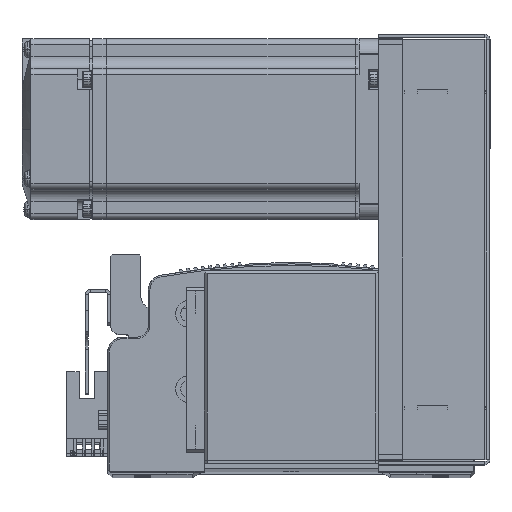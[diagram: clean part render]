
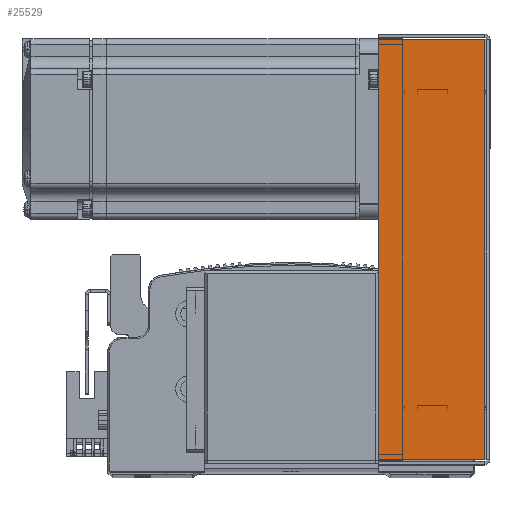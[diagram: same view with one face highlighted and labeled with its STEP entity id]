
A CAD part, top view. The second image highlights one B-rep face of the part: STEP entity #25529.
In plain terms, the highlighted planar face has unit normal (0, 0, 1) as drawn and (0, 0, -1) by its records, which use the part's own axes.
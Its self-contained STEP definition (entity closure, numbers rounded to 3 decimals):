
#4050 = CARTESIAN_POINT ( 'NONE',  ( -69.793, 0.737, -33.5 ) ) ;
#4080 = CARTESIAN_POINT ( 'NONE',  ( 69.793, 0.737, -33.5 ) ) ;
#4097 = CARTESIAN_POINT ( 'NONE',  ( 69.793, 36., -33.5 ) ) ;
#4138 = CARTESIAN_POINT ( 'NONE',  ( -69.793, 36., -33.5 ) ) ;
#25529 = ADVANCED_FACE ( 'NONE', ( #35442 ), #51929, .F. ) ;
#29565 = CARTESIAN_POINT ( 'NONE',  ( 71.5, 0.737, -33.5 ) ) ;
#29634 = DIRECTION ( 'NONE',  ( 1., 0., 0. ) ) ;
#29743 = CARTESIAN_POINT ( 'NONE',  ( -69.793, 0., -33.5 ) ) ;
#29777 = DIRECTION ( 'NONE',  ( 0., 1., 0. ) ) ;
#29798 = CARTESIAN_POINT ( 'NONE',  ( 0., 36., -33.5 ) ) ;
#29801 = CARTESIAN_POINT ( 'NONE',  ( 69.793, 0., -33.5 ) ) ;
#29806 = DIRECTION ( 'NONE',  ( 0., 1., 0. ) ) ;
#29819 = DIRECTION ( 'NONE',  ( 1., 0., 0. ) ) ;
#30995 = LINE ( 'NONE', #29565, #30999 ) ;
#30999 = VECTOR ( 'NONE', #29634, 1000. ) ;
#31039 = LINE ( 'NONE', #29801, #31053 ) ;
#31053 = VECTOR ( 'NONE', #29806, 1000. ) ;
#31058 = LINE ( 'NONE', #29798, #31094 ) ;
#31078 = LINE ( 'NONE', #29743, #31101 ) ;
#31094 = VECTOR ( 'NONE', #29819, 1000. ) ;
#31101 = VECTOR ( 'NONE', #29777, 1000. ) ;
#35442 = FACE_OUTER_BOUND ( 'NONE', #64688, .T. ) ;
#48171 = EDGE_CURVE ( 'NONE', #86776, #86767, #30995, .T. ) ;
#48220 = EDGE_CURVE ( 'NONE', #86776, #86859, #31078, .T. ) ;
#48241 = EDGE_CURVE ( 'NONE', #86859, #86856, #31058, .T. ) ;
#48242 = EDGE_CURVE ( 'NONE', #86767, #86856, #31039, .T. ) ;
#51929 = PLANE ( 'NONE',  #52138 ) ;
#51944 = CARTESIAN_POINT ( 'NONE',  ( 0., 0., -33.5 ) ) ;
#51960 = DIRECTION ( 'NONE',  ( 0., 0., 1. ) ) ;
#51985 = DIRECTION ( 'NONE',  ( 0., -1., 0. ) ) ;
#52138 = AXIS2_PLACEMENT_3D ( 'NONE', #51944, #51960, #51985 ) ;
#64688 = EDGE_LOOP ( 'NONE', ( #85041, #85025, #85107, #85072 ) ) ;
#85025 = ORIENTED_EDGE ( 'NONE', *, *, #48220, .T. ) ;
#85041 = ORIENTED_EDGE ( 'NONE', *, *, #48171, .F. ) ;
#85072 = ORIENTED_EDGE ( 'NONE', *, *, #48242, .F. ) ;
#85107 = ORIENTED_EDGE ( 'NONE', *, *, #48241, .T. ) ;
#86767 = VERTEX_POINT ( 'NONE', #4080 ) ;
#86776 = VERTEX_POINT ( 'NONE', #4050 ) ;
#86856 = VERTEX_POINT ( 'NONE', #4097 ) ;
#86859 = VERTEX_POINT ( 'NONE', #4138 ) ;
